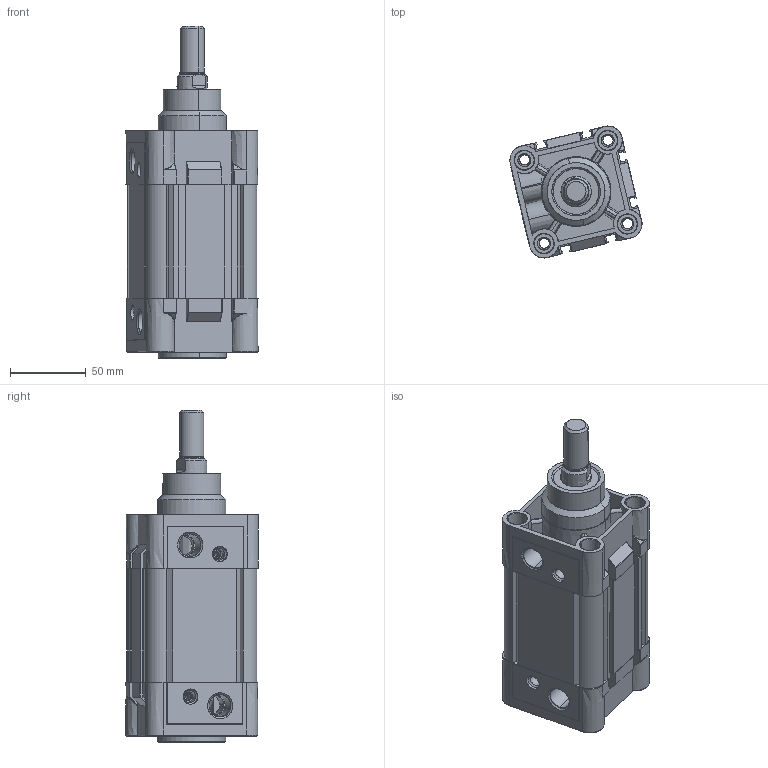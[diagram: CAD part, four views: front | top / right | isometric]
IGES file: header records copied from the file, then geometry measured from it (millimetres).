
Start section: SolidWorks IGES file using analytic representation for surfaces
Global section: file name: D:\ARICA 3D 禽Z軲LER\3D IGES\KDNC\KDNC63\KDNC63x25CYLINDER.IGS,1; native system: 5HSolidWorks 2013; preprocessor: SolidWorks 2013; author: user; date: 150303.155158; units: millimetre
Bounding box: 87.1 x 87.23 x 219 mm (x, y, z)
Surface area: 196110.2 mm2 (no closed solid volume)
Topology: 0 solids, 0 shells, 841 faces, 14831 edges, 14818 vertices
Faces by surface type: revolution 452, bspline 389
